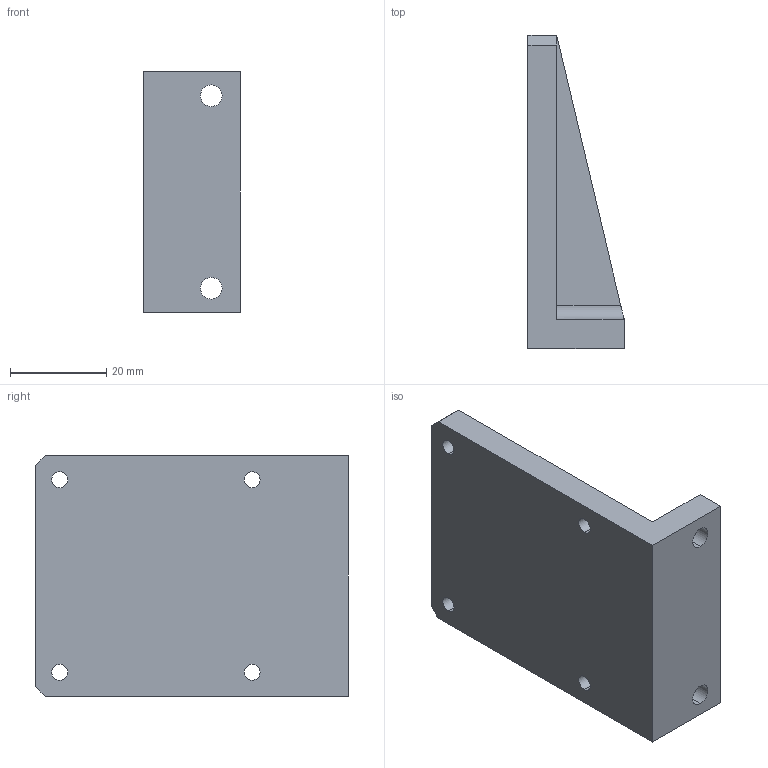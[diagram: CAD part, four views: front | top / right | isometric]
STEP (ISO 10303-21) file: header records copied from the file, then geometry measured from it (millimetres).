
FILE_DESCRIPTION (( 'STEP AP203' ), '1' );
FILE_NAME ('PJK21.STEP', '2022-04-10T00:59:05', ( '' ), ( '' ), 'SwSTEP 2.0', 'SolidWorks 2017', '' );
FILE_SCHEMA (( 'CONFIG_CONTROL_DESIGN' ));
Length unit declared in the file: millimetre
Products named in the file (1): PJK21
Bounding box: 20 x 65 x 50 mm (x, y, z)
Volume: 24779.2 mm3; surface area: 10518.6 mm2
Topology: 1 solids, 1 shells, 35 faces, 89 edges, 58 vertices
Faces by surface type: cylinder 18, plane 17
Entity records: 1166 total; most frequent: DIRECTION 193, CARTESIAN_POINT 189, ORIENTED_EDGE 178, EDGE_CURVE 89, AXIS2_PLACEMENT_3D 70, VERTEX_POINT 58, LINE 53, VECTOR 53
